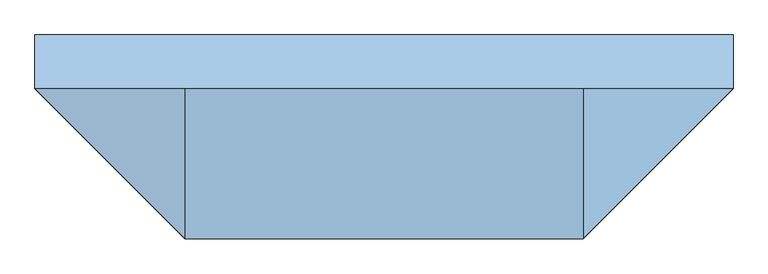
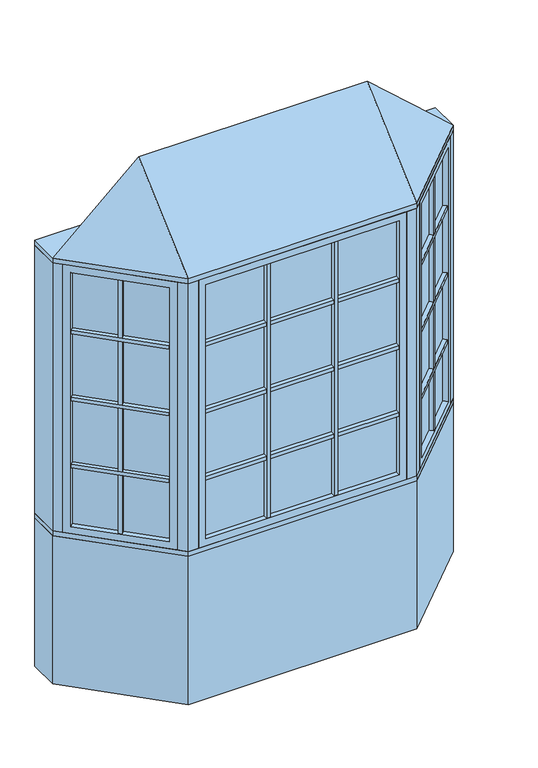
"""IFC4 building model written with IfcOpenShell, lengths in millimetres: window geometry, Pollard_Windows_Tudor Casement Bows and Bays : AML-BAY 45 AFR0514-10-500_GC."""

from ifc_helpers import new_model, si_unit, frame, origin, origin_with_axes, place, context, project, spatial, polyline, outline, extrude, faceted_brep, source, transform, mapped, element, save


def window_79abd984(model_context):
    return source(origin(), model_context, "Body", "SolidModel", [
        extrude(outline(polyline([(622.8614193, -437.1108753), (607.3050701, -421.5545261), (915.116171, -113.7434252), (930.6725202, -129.2997743), (622.8614193, -437.1108753)])), frame((0.0, 0.0, 1490.998), z_axis=(0.0, 0.0, 1.0), x_axis=(1.0, 0.0, 0.0)), (0.0, 0.0, 1.0), 18.0),
        extrude(outline(polyline([(603.7129677, -417.9624236), (588.1566185, -402.4060744), (895.9677194, -94.5949735), (911.5240686, -110.1513227), (603.7129677, -417.9624236)])), frame((0.0, 0.0, 1490.998), z_axis=(0.0, 0.0, 1.0), x_axis=(1.0, 0.0, 0.0)), (0.0, 0.0, 1.0), 18.0),
        extrude(outline(polyline([(622.8614193, -437.1108753), (607.3050701, -421.5545261), (915.116171, -113.7434252), (930.6725202, -129.2997743), (622.8614193, -437.1108753)])), frame((0.0, 0.0, 1140.998), z_axis=(0.0, 0.0, 1.0), x_axis=(1.0, 0.0, 0.0)), (0.0, 0.0, 1.0), 18.0),
        extrude(outline(polyline([(603.7129677, -417.9624236), (588.1566185, -402.4060744), (895.9677194, -94.5949735), (911.5240686, -110.1513227), (603.7129677, -417.9624236)])), frame((0.0, 0.0, 1140.998), z_axis=(0.0, 0.0, 1.0), x_axis=(1.0, 0.0, 0.0)), (0.0, 0.0, 1.0), 18.0),
        extrude(outline(polyline([(622.8614193, -437.1108753), (607.3050701, -421.5545261), (915.116171, -113.7434252), (930.6725202, -129.2997743), (622.8614193, -437.1108753)])), frame((0.0, 0.0, 1490.998), z_axis=(0.0, 0.0, 1.0), x_axis=(1.0, 0.0, 0.0)), (0.0, 0.0, 1.0), 18.0),
        extrude(outline(polyline([(603.7129677, -417.9624236), (588.1566185, -402.4060744), (895.9677194, -94.5949735), (911.5240686, -110.1513227), (603.7129677, -417.9624236)])), frame((0.0, 0.0, 1490.998), z_axis=(0.0, 0.0, 1.0), x_axis=(1.0, 0.0, 0.0)), (0.0, 0.0, 1.0), 18.0),
        extrude(outline(polyline([(622.8614193, -437.1108753), (607.3050701, -421.5545261), (915.116171, -113.7434252), (930.6725202, -129.2997743), (622.8614193, -437.1108753)])), frame((0.0, 0.0, 1490.998), z_axis=(0.0, 0.0, 1.0), x_axis=(1.0, 0.0, 0.0)), (0.0, 0.0, 1.0), 18.0),
        extrude(outline(polyline([(603.7129677, -417.9624236), (588.1566185, -402.4060744), (895.9677194, -94.5949735), (911.5240686, -110.1513227), (603.7129677, -417.9624236)])), frame((0.0, 0.0, 1490.998), z_axis=(0.0, 0.0, 1.0), x_axis=(1.0, 0.0, 0.0)), (0.0, 0.0, 1.0), 18.0),
        extrude(outline(polyline([(622.8614193, -437.1108753), (607.3050701, -421.5545261), (915.116171, -113.7434252), (930.6725202, -129.2997743), (622.8614193, -437.1108753)])), frame((0.0, 0.0, 1840.998), z_axis=(0.0, 0.0, 1.0), x_axis=(1.0, 0.0, 0.0)), (0.0, 0.0, 1.0), 18.0),
        extrude(outline(polyline([(603.7129677, -417.9624236), (588.1566185, -402.4060744), (895.9677194, -94.5949735), (911.5240686, -110.1513227), (603.7129677, -417.9624236)])), frame((0.0, 0.0, 1840.998), z_axis=(0.0, 0.0, 1.0), x_axis=(1.0, 0.0, 0.0)), (0.0, 0.0, 1.0), 18.0),
        extrude(outline(polyline([(767.5745816, -261.2850146), (783.1309308, -276.8413638), (770.4030087, -289.5692858), (754.8466595, -274.0129366), (767.5745816, -261.2850146)])), frame((0.0, 0.0, 835.8628), z_axis=(0.0, 0.0, 1.0), x_axis=(1.0, 0.0, 0.0)), (0.0, 0.0, 1.0), 1328.2704),
        extrude(outline(polyline([(763.9824791, -257.6929121), (751.2545571, -270.4208342), (735.6982079, -254.864485), (748.42613, -242.1365629), (763.9824791, -257.6929121)])), frame((0.0, 0.0, 835.8628), z_axis=(0.0, 0.0, 1.0), x_axis=(1.0, 0.0, 0.0)), (0.0, 0.0, 1.0), 1328.2704),
        extrude(outline(polyline([(924.0964271, -104.763169), (598.324814, -430.5347822), (594.7327115, -426.9426797), (920.5043247, -101.1710666), (924.0964271, -104.763169)])), frame((0.0, 0.0, 823.1628), z_axis=(0.0, 0.0, 1.0), x_axis=(1.0, 0.0, 0.0)), (0.0, 0.0, 1.0), 1353.6704),
        faceted_brep([(915.116171, -113.7434252, 835.8628), (933.0766833, -131.7039374, 835.8628), (933.0766833, -131.7039374, 2164.1332), (915.116171, -113.7434252, 2164.1332), (920.5043247, -101.1710666, 823.1628), (924.0964271, -104.763169, 823.1628), (924.0964271, -104.763169, 2176.8332), (920.5043247, -101.1710666, 2176.8332), (893.5635563, -92.1908105, 835.8628), (911.5240686, -110.1513227, 835.8628), (911.5240686, -110.1513227, 2164.1332), (893.5635563, -92.1908105, 2164.1332), (958.4369265, -106.3436941, 799.998), (918.9237996, -66.8305672, 799.998), (918.9237996, -66.8305672, 2199.998), (958.4369265, -106.3436941, 2199.998), (625.2655823, -439.5150383, 2164.1332), (607.3050701, -421.5545261, 2164.1332), (598.324814, -430.5347822, 2176.8332), (594.7327115, -426.9426797, 2176.8332), (603.7129677, -417.9624236, 2164.1332), (585.7524554, -400.0019114, 2164.1332), (560.3922121, -425.3621547, 2199.998), (599.9053391, -464.8752816, 2199.998), (625.2655823, -439.5150383, 835.8628), (607.3050701, -421.5545261, 835.8628), (598.324814, -430.5347822, 823.1628), (594.7327115, -426.9426797, 823.1628), (603.7129677, -417.9624236, 835.8628), (585.7524554, -400.0019114, 835.8628), (560.3922121, -425.3621547, 799.998), (599.9053391, -464.8752816, 799.998)], [[[0, 1, 2, 3]], [[4, 5, 6, 7]], [[8, 9, 10, 11]], [[12, 13, 14, 15]], [[3, 2, 16, 17]], [[7, 6, 18, 19]], [[11, 10, 20, 21]], [[15, 14, 22, 23]], [[17, 16, 24, 25]], [[19, 18, 26, 27]], [[21, 20, 28, 29]], [[23, 22, 30, 31]], [[25, 24, 1, 0]], [[5, 26, 18, 6], [3, 17, 25, 0]], [[27, 26, 5, 4]], [[7, 19, 27, 4], [9, 28, 20, 10]], [[29, 28, 9, 8]], [[13, 30, 22, 14], [11, 21, 29, 8]], [[31, 30, 13, 12]], [[15, 23, 31, 12], [1, 24, 16, 2]]]),
        extrude(outline(polyline([(175.7952, -474.8306207), (175.7952, -496.8306207), (157.7952, -496.8306207), (157.7952, -474.8306207), (175.7952, -474.8306207)])), frame((0.0, 0.0, 835.8628), z_axis=(0.0, 0.0, 1.0), x_axis=(1.0, 0.0, 0.0)), (0.0, 0.0, 1.0), 1328.2704),
        extrude(outline(polyline([(175.7952, -469.7506207), (157.7952, -469.7506207), (157.7952, -447.7506207), (175.7952, -447.7506207), (175.7952, -469.7506207)])), frame((0.0, 0.0, 835.8628), z_axis=(0.0, 0.0, 1.0), x_axis=(1.0, 0.0, 0.0)), (0.0, 0.0, 1.0), 1328.2704),
        extrude(outline(polyline([(-157.7952, -474.8306207), (-157.7952, -496.8306207), (-175.7952, -496.8306207), (-175.7952, -474.8306207), (-157.7952, -474.8306207)])), frame((0.0, 0.0, 835.8628), z_axis=(0.0, 0.0, 1.0), x_axis=(1.0, 0.0, 0.0)), (0.0, 0.0, 1.0), 1328.2704),
        extrude(outline(polyline([(-157.7952, -469.7506207), (-175.7952, -469.7506207), (-175.7952, -447.7506207), (-157.7952, -447.7506207), (-157.7952, -469.7506207)])), frame((0.0, 0.0, 835.8628), z_axis=(0.0, 0.0, 1.0), x_axis=(1.0, 0.0, 0.0)), (0.0, 0.0, 1.0), 1328.2704),
        extrude(outline(polyline([(-478.6852, -496.8306207), (-478.6852, -474.8306207), (478.6852, -474.8306207), (478.6852, -496.8306207), (-478.6852, -496.8306207)])), frame((0.0, 0.0, 1140.998), z_axis=(0.0, 0.0, 1.0), x_axis=(1.0, 0.0, 0.0)), (0.0, 0.0, 1.0), 18.0),
        extrude(outline(polyline([(-478.6852, -469.7506207), (-478.6852, -447.7506207), (478.6852, -447.7506207), (478.6852, -469.7506207), (-478.6852, -469.7506207)])), frame((0.0, 0.0, 1140.998), z_axis=(0.0, 0.0, 1.0), x_axis=(1.0, 0.0, 0.0)), (0.0, 0.0, 1.0), 18.0),
        extrude(outline(polyline([(-478.6852, -496.8306207), (-478.6852, -474.8306207), (478.6852, -474.8306207), (478.6852, -496.8306207), (-478.6852, -496.8306207)])), frame((0.0, 0.0, 1490.998), z_axis=(0.0, 0.0, 1.0), x_axis=(1.0, 0.0, 0.0)), (0.0, 0.0, 1.0), 18.0),
        extrude(outline(polyline([(-478.6852, -469.7506207), (-478.6852, -447.7506207), (478.6852, -447.7506207), (478.6852, -469.7506207), (-478.6852, -469.7506207)])), frame((0.0, 0.0, 1490.998), z_axis=(0.0, 0.0, 1.0), x_axis=(1.0, 0.0, 0.0)), (0.0, 0.0, 1.0), 18.0),
        extrude(outline(polyline([(-478.6852, -496.8306207), (-478.6852, -474.8306207), (478.6852, -474.8306207), (478.6852, -496.8306207), (-478.6852, -496.8306207)])), frame((0.0, 0.0, 1490.998), z_axis=(0.0, 0.0, 1.0), x_axis=(1.0, 0.0, 0.0)), (0.0, 0.0, 1.0), 18.0),
        extrude(outline(polyline([(-478.6852, -469.7506207), (-478.6852, -447.7506207), (478.6852, -447.7506207), (478.6852, -469.7506207), (-478.6852, -469.7506207)])), frame((0.0, 0.0, 1490.998), z_axis=(0.0, 0.0, 1.0), x_axis=(1.0, 0.0, 0.0)), (0.0, 0.0, 1.0), 18.0),
        extrude(outline(polyline([(-478.6852, -496.8306207), (-478.6852, -474.8306207), (478.6852, -474.8306207), (478.6852, -496.8306207), (-478.6852, -496.8306207)])), frame((0.0, 0.0, 1490.998), z_axis=(0.0, 0.0, 1.0), x_axis=(1.0, 0.0, 0.0)), (0.0, 0.0, 1.0), 18.0),
        extrude(outline(polyline([(-478.6852, -469.7506207), (-478.6852, -447.7506207), (478.6852, -447.7506207), (478.6852, -469.7506207), (-478.6852, -469.7506207)])), frame((0.0, 0.0, 1490.998), z_axis=(0.0, 0.0, 1.0), x_axis=(1.0, 0.0, 0.0)), (0.0, 0.0, 1.0), 18.0),
        extrude(outline(polyline([(-930.6725202, -129.2997743), (-915.116171, -113.7434252), (-607.3050701, -421.5545261), (-622.8614193, -437.1108753), (-930.6725202, -129.2997743)])), frame((0.0, 0.0, 1140.998), z_axis=(0.0, 0.0, 1.0), x_axis=(1.0, 0.0, 0.0)), (0.0, 0.0, 1.0), 18.0),
        extrude(outline(polyline([(-911.5240686, -110.1513227), (-895.9677194, -94.5949735), (-588.1566185, -402.4060744), (-603.7129677, -417.9624236), (-911.5240686, -110.1513227)])), frame((0.0, 0.0, 1140.998), z_axis=(0.0, 0.0, 1.0), x_axis=(1.0, 0.0, 0.0)), (0.0, 0.0, 1.0), 18.0),
        extrude(outline(polyline([(-930.6725202, -129.2997743), (-915.116171, -113.7434252), (-607.3050701, -421.5545261), (-622.8614193, -437.1108753), (-930.6725202, -129.2997743)])), frame((0.0, 0.0, 1490.998), z_axis=(0.0, 0.0, 1.0), x_axis=(1.0, 0.0, 0.0)), (0.0, 0.0, 1.0), 18.0),
        extrude(outline(polyline([(-911.5240686, -110.1513227), (-895.9677194, -94.5949735), (-588.1566185, -402.4060744), (-603.7129677, -417.9624236), (-911.5240686, -110.1513227)])), frame((0.0, 0.0, 1490.998), z_axis=(0.0, 0.0, 1.0), x_axis=(1.0, 0.0, 0.0)), (0.0, 0.0, 1.0), 18.0),
        extrude(outline(polyline([(-930.6725202, -129.2997743), (-915.116171, -113.7434252), (-607.3050701, -421.5545261), (-622.8614193, -437.1108753), (-930.6725202, -129.2997743)])), frame((0.0, 0.0, 1490.998), z_axis=(0.0, 0.0, 1.0), x_axis=(1.0, 0.0, 0.0)), (0.0, 0.0, 1.0), 18.0),
        extrude(outline(polyline([(-911.5240686, -110.1513227), (-895.9677194, -94.5949735), (-588.1566185, -402.4060744), (-603.7129677, -417.9624236), (-911.5240686, -110.1513227)])), frame((0.0, 0.0, 1490.998), z_axis=(0.0, 0.0, 1.0), x_axis=(1.0, 0.0, 0.0)), (0.0, 0.0, 1.0), 18.0),
        extrude(outline(polyline([(-930.6725202, -129.2997743), (-915.116171, -113.7434252), (-607.3050701, -421.5545261), (-622.8614193, -437.1108753), (-930.6725202, -129.2997743)])), frame((0.0, 0.0, 1490.998), z_axis=(0.0, 0.0, 1.0), x_axis=(1.0, 0.0, 0.0)), (0.0, 0.0, 1.0), 18.0),
        extrude(outline(polyline([(-911.5240686, -110.1513227), (-895.9677194, -94.5949735), (-588.1566185, -402.4060744), (-603.7129677, -417.9624236), (-911.5240686, -110.1513227)])), frame((0.0, 0.0, 1490.998), z_axis=(0.0, 0.0, 1.0), x_axis=(1.0, 0.0, 0.0)), (0.0, 0.0, 1.0), 18.0),
        extrude(outline(polyline([(-930.6725202, -129.2997743), (-915.116171, -113.7434252), (-607.3050701, -421.5545261), (-622.8614193, -437.1108753), (-930.6725202, -129.2997743)])), frame((0.0, 0.0, 1840.998), z_axis=(0.0, 0.0, 1.0), x_axis=(1.0, 0.0, 0.0)), (0.0, 0.0, 1.0), 18.0),
        extrude(outline(polyline([(-911.5240686, -110.1513227), (-895.9677194, -94.5949735), (-588.1566185, -402.4060744), (-603.7129677, -417.9624236), (-911.5240686, -110.1513227)])), frame((0.0, 0.0, 1840.998), z_axis=(0.0, 0.0, 1.0), x_axis=(1.0, 0.0, 0.0)), (0.0, 0.0, 1.0), 18.0),
        extrude(outline(polyline([(-478.6852, -496.8306207), (-478.6852, -474.8306207), (478.6852, -474.8306207), (478.6852, -496.8306207), (-478.6852, -496.8306207)])), frame((0.0, 0.0, 1840.998), z_axis=(0.0, 0.0, 1.0), x_axis=(1.0, 0.0, 0.0)), (0.0, 0.0, 1.0), 18.0),
        extrude(outline(polyline([(-478.6852, -469.7506207), (-478.6852, -447.7506207), (478.6852, -447.7506207), (478.6852, -469.7506207), (-478.6852, -469.7506207)])), frame((0.0, 0.0, 1840.998), z_axis=(0.0, 0.0, 1.0), x_axis=(1.0, 0.0, 0.0)), (0.0, 0.0, 1.0), 18.0),
        extrude(outline(polyline([(-754.8466595, -274.0129366), (-770.4030087, -289.5692858), (-783.1309308, -276.8413638), (-767.5745816, -261.2850146), (-754.8466595, -274.0129366)])), frame((0.0, 0.0, 835.8628), z_axis=(0.0, 0.0, 1.0), x_axis=(1.0, 0.0, 0.0)), (0.0, 0.0, 1.0), 1328.2704),
        extrude(outline(polyline([(-751.2545571, -270.4208342), (-763.9824791, -257.6929121), (-748.42613, -242.1365629), (-735.6982079, -254.864485), (-751.2545571, -270.4208342)])), frame((0.0, 0.0, 835.8628), z_axis=(0.0, 0.0, 1.0), x_axis=(1.0, 0.0, 0.0)), (0.0, 0.0, 1.0), 1328.2704),
        extrude(outline(polyline([(-598.324814, -430.5347822), (-924.0964271, -104.763169), (-920.5043247, -101.1710666), (-594.7327115, -426.9426797), (-598.324814, -430.5347822)])), frame((0.0, 0.0, 823.1628), z_axis=(0.0, 0.0, 1.0), x_axis=(1.0, 0.0, 0.0)), (0.0, 0.0, 1.0), 1353.6704),
        faceted_brep([(-603.7129677, -417.9624236, 2164.1332), (-585.7524554, -400.0019114, 2164.1332), (-585.7524554, -400.0019114, 835.8628), (-603.7129677, -417.9624236, 835.8628), (-598.324814, -430.5347822, 2176.8332), (-594.7327115, -426.9426797, 2176.8332), (-594.7327115, -426.9426797, 823.1628), (-598.324814, -430.5347822, 823.1628), (-625.2655823, -439.5150383, 2164.1332), (-607.3050701, -421.5545261, 2164.1332), (-607.3050701, -421.5545261, 835.8628), (-625.2655823, -439.5150383, 835.8628), (-560.3922121, -425.3621547, 2199.998), (-599.9053391, -464.8752816, 2199.998), (-599.9053391, -464.8752816, 799.998), (-560.3922121, -425.3621547, 799.998), (-893.5635563, -92.1908105, 835.8628), (-911.5240686, -110.1513227, 835.8628), (-920.5043247, -101.1710666, 823.1628), (-924.0964271, -104.763169, 823.1628), (-915.116171, -113.7434252, 835.8628), (-933.0766833, -131.7039374, 835.8628), (-958.4369265, -106.3436941, 799.998), (-918.9237996, -66.8305672, 799.998), (-893.5635563, -92.1908105, 2164.1332), (-911.5240686, -110.1513227, 2164.1332), (-920.5043247, -101.1710666, 2176.8332), (-924.0964271, -104.763169, 2176.8332), (-915.116171, -113.7434252, 2164.1332), (-933.0766833, -131.7039374, 2164.1332), (-958.4369265, -106.3436941, 2199.998), (-918.9237996, -66.8305672, 2199.998)], [[[0, 1, 2, 3]], [[4, 5, 6, 7]], [[8, 9, 10, 11]], [[12, 13, 14, 15]], [[3, 2, 16, 17]], [[7, 6, 18, 19]], [[11, 10, 20, 21]], [[15, 14, 22, 23]], [[17, 16, 24, 25]], [[19, 18, 26, 27]], [[21, 20, 28, 29]], [[23, 22, 30, 31]], [[15, 23, 31, 12], [1, 24, 16, 2]], [[25, 24, 1, 0]], [[5, 26, 18, 6], [3, 17, 25, 0]], [[27, 26, 5, 4]], [[7, 19, 27, 4], [9, 28, 20, 10]], [[29, 28, 9, 8]], [[13, 30, 22, 14], [11, 21, 29, 8]], [[31, 30, 13, 12]]]),
        extrude(outline(polyline([(491.3852, -474.8306207), (-491.3852, -474.8306207), (-491.3852, -469.7506207), (491.3852, -469.7506207), (491.3852, -474.8306207)])), frame((0.0, 0.0, 823.1628), z_axis=(0.0, 0.0, 1.0), x_axis=(1.0, 0.0, 0.0)), (0.0, 0.0, 1.0), 1353.6704),
        faceted_brep([(478.6852, -474.8306207, 835.8628), (478.6852, -500.2306207, 835.8628), (478.6852, -500.2306207, 2164.1332), (478.6852, -474.8306207, 2164.1332), (491.3852, -469.7506207, 823.1628), (491.3852, -474.8306207, 823.1628), (491.3852, -474.8306207, 2176.8332), (491.3852, -469.7506207, 2176.8332), (478.6852, -444.3506207, 835.8628), (478.6852, -469.7506207, 835.8628), (478.6852, -469.7506207, 2164.1332), (478.6852, -444.3506207, 2164.1332), (514.55, -500.2306207, 799.998), (514.55, -444.3506207, 799.998), (514.55, -444.3506207, 2199.998), (514.55, -500.2306207, 2199.998), (-478.6852, -500.2306207, 2164.1332), (-478.6852, -474.8306207, 2164.1332), (-491.3852, -474.8306207, 2176.8332), (-491.3852, -469.7506207, 2176.8332), (-478.6852, -469.7506207, 2164.1332), (-478.6852, -444.3506207, 2164.1332), (-514.55, -444.3506207, 2199.998), (-514.55, -500.2306207, 2199.998), (-478.6852, -500.2306207, 835.8628), (-478.6852, -474.8306207, 835.8628), (-491.3852, -474.8306207, 823.1628), (-491.3852, -469.7506207, 823.1628), (-478.6852, -469.7506207, 835.8628), (-478.6852, -444.3506207, 835.8628), (-514.55, -444.3506207, 799.998), (-514.55, -500.2306207, 799.998)], [[[0, 1, 2, 3]], [[4, 5, 6, 7]], [[8, 9, 10, 11]], [[12, 13, 14, 15]], [[3, 2, 16, 17]], [[7, 6, 18, 19]], [[11, 10, 20, 21]], [[15, 14, 22, 23]], [[17, 16, 24, 25]], [[19, 18, 26, 27]], [[21, 20, 28, 29]], [[23, 22, 30, 31]], [[15, 23, 31, 12], [1, 24, 16, 2]], [[25, 24, 1, 0]], [[5, 26, 18, 6], [3, 17, 25, 0]], [[27, 26, 5, 4]], [[7, 19, 27, 4], [9, 28, 20, 10]], [[29, 28, 9, 8]], [[13, 30, 22, 14], [11, 21, 29, 8]], [[31, 30, 13, 12]]]),
        faceted_brep([(990.0, -74.7806207, 2225.398), (564.55, -500.2306207, 2225.398), (-564.55, -500.2306207, 2225.398), (-990.0, -74.7806207, 2225.398), (-564.55, -74.7806207, 2606.398), (564.55, -74.7806207, 2606.398)], [[[0, 1, 2, 3]], [[3, 2, 4]], [[2, 1, 5, 4]], [[1, 0, 5]], [[0, 3, 4, 5]]]),
        extrude(outline(polyline([(-990.0, 77.6193793), (990.0, 77.6193793), (990.0, -74.7806207), (564.55, -500.2306207), (-564.55, -500.2306207), (-990.0, -74.7806207), (-990.0, 77.6193793)])), frame((0.0, 0.0, 2199.998), z_axis=(0.0, 0.0, 1.0), x_axis=(1.0, 0.0, 0.0)), (0.0, 0.0, 1.0), 25.4),
        extrude(outline(polyline([(-990.0, -74.7806207), (-990.0, 77.6193793), (-926.8738531, 77.6193793), (-926.8738531, -74.7806207), (-958.4369265, -106.3436941), (-990.0, -74.7806207)])), frame((0.0, 0.0, 799.998), z_axis=(0.0, 0.0, 1.0), x_axis=(1.0, 0.0, 0.0)), (0.0, 0.0, 1.0), 1400.0),
        extrude(outline(polyline([(990.0, 77.6193793), (990.0, -74.7806207), (958.4369265, -106.3436941), (926.8738531, -74.7806207), (926.8738531, 77.6193793), (990.0, 77.6193793)])), frame((0.0, 0.0, 799.998), z_axis=(0.0, 0.0, 1.0), x_axis=(1.0, 0.0, 0.0)), (0.0, 0.0, 1.0), 1400.0),
        extrude(outline(polyline([(564.55, -500.2306207), (514.55, -500.2306207), (514.55, -450.2306207), (543.8393219, -450.2306207), (564.55, -429.5199425), (599.9053391, -464.8752816), (564.55, -500.2306207)])), frame((0.0, 0.0, 799.998), z_axis=(0.0, 0.0, 1.0), x_axis=(1.0, 0.0, 0.0)), (0.0, 0.0, 1.0), 1400.0),
        extrude(outline(polyline([(-564.55, -500.2306207), (-599.9053391, -464.8752816), (-564.55, -429.5199425), (-543.8393219, -450.2306207), (-514.55, -450.2306207), (-514.55, -500.2306207), (-564.55, -500.2306207)])), frame((0.0, 0.0, 799.998), z_axis=(0.0, 0.0, 1.0), x_axis=(1.0, 0.0, 0.0)), (0.0, 0.0, 1.0), 1400.0),
        extrude(outline(polyline([(-564.55, -500.2306207), (-990.0, -74.7806207), (-990.0, 77.6193793), (-926.8738531, 77.6193793), (-501.4238531, -347.8306207), (501.4238531, -347.8306207), (926.8738531, 77.6193793), (990.0, 77.6193793), (990.0, -74.7806207), (564.55, -500.2306207), (-564.55, -500.2306207)])), frame((0.0, 0.0, 774.598), z_axis=(0.0, 0.0, 1.0), x_axis=(1.0, 0.0, 0.0)), (0.0, 0.0, 1.0), 25.4),
        extrude(outline(polyline([(-990.0, -74.7806207), (-990.0, 77.6193793), (-926.8738531, 77.6193793), (-501.4238531, -347.8306207), (501.4238531, -347.8306207), (926.8738531, 77.6193793), (990.0, 77.6193793), (990.0, -74.7806207), (564.55, -500.2306207), (-564.55, -500.2306207), (-990.0, -74.7806207)])), origin_with_axes(), (0.0, 0.0, 1.0), 774.598),
    ])


if __name__ == "__main__":
    model = new_model("IFC4")
    model_context = context("Model", 3, world=origin())
    ifc_project = project(units=[si_unit("LENGTHUNIT", "METRE", prefix="MILLI")], contexts=[model_context])
    site = spatial("IfcSite", under=ifc_project)
    building = spatial("IfcBuilding", under=site)
    placement = place(None, origin())
    window_shape = window_79abd984(model_context)
    element("IfcWindow", 1, ObjectType="Pollard_Windows_Tudor Casement Bows and Bays : AML-BAY 45 AFR0514-10-500_GC", at=placement, inside=building, context=model_context, shape_type="MappedRepresentation", body=[
        mapped(window_shape, transform((0.0, 0.0, 0.0), x_axis=(1.0, 0.0, 0.0), y_axis=(0.0, 1.0, 0.0), z_axis=(0.0, 0.0, 1.0))),
    ])
    save(model, "model.ifc")
